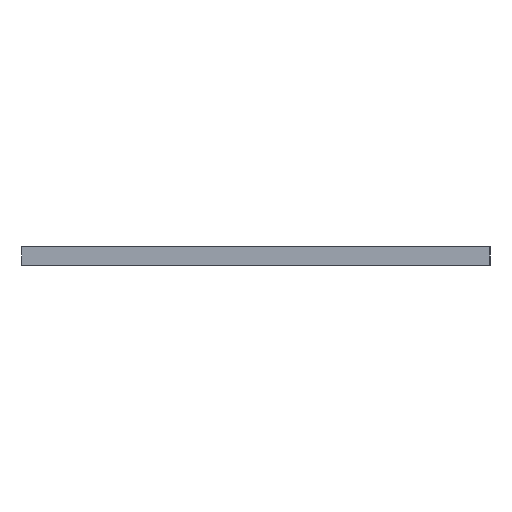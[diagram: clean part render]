
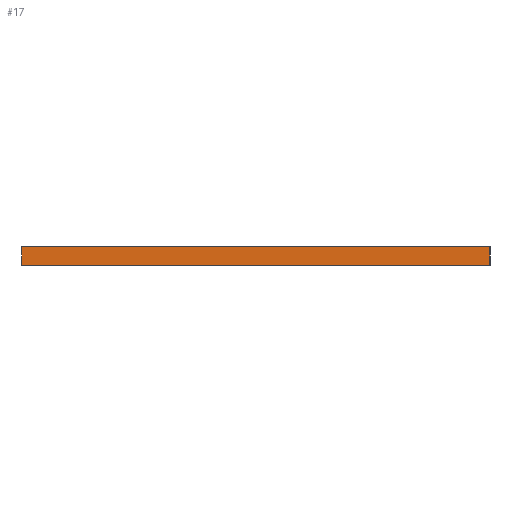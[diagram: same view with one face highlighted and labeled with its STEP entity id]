
A CAD part, left-side view. The second image highlights one B-rep face of the part: STEP entity #17.
In plain terms, the highlighted planar face has unit normal (-1, 0, 0).
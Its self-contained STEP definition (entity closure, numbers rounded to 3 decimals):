
#17 = ADVANCED_FACE('',(#18),#32,.F.);
#18 = FACE_BOUND('',#19,.F.);
#19 = EDGE_LOOP('',(#20,#55,#83,#111));
#20 = ORIENTED_EDGE('',*,*,#21,.F.);
#21 = EDGE_CURVE('',#22,#24,#26,.T.);
#22 = VERTEX_POINT('',#23);
#23 = CARTESIAN_POINT('',(0.,464.,0.));
#24 = VERTEX_POINT('',#25);
#25 = CARTESIAN_POINT('',(0.,0.,0.));
#26 = SURFACE_CURVE('',#27,(#31,#43),.PCURVE_S1.);
#27 = LINE('',#28,#29);
#28 = CARTESIAN_POINT('',(0.,464.,0.));
#29 = VECTOR('',#30,1.);
#30 = DIRECTION('',(0.,-1.,0.));
#31 = PCURVE('',#32,#37);
#32 = PLANE('',#33);
#33 = AXIS2_PLACEMENT_3D('',#34,#35,#36);
#34 = CARTESIAN_POINT('',(0.,464.,0.));
#35 = DIRECTION('',(1.,0.,0.));
#36 = DIRECTION('',(0.,-1.,0.));
#37 = DEFINITIONAL_REPRESENTATION('',(#38),#42);
#38 = LINE('',#39,#40);
#39 = CARTESIAN_POINT('',(0.,0.));
#40 = VECTOR('',#41,1.);
#41 = DIRECTION('',(1.,0.));
#42 = ( GEOMETRIC_REPRESENTATION_CONTEXT(2) 
PARAMETRIC_REPRESENTATION_CONTEXT() REPRESENTATION_CONTEXT('2D SPACE',''
  ) );
#43 = PCURVE('',#44,#49);
#44 = PLANE('',#45);
#45 = AXIS2_PLACEMENT_3D('',#46,#47,#48);
#46 = CARTESIAN_POINT('',(0.,464.,0.));
#47 = DIRECTION('',(0.,0.,1.));
#48 = DIRECTION('',(0.,-1.,0.));
#49 = DEFINITIONAL_REPRESENTATION('',(#50),#54);
#50 = LINE('',#51,#52);
#51 = CARTESIAN_POINT('',(0.,0.));
#52 = VECTOR('',#53,1.);
#53 = DIRECTION('',(1.,0.));
#54 = ( GEOMETRIC_REPRESENTATION_CONTEXT(2) 
PARAMETRIC_REPRESENTATION_CONTEXT() REPRESENTATION_CONTEXT('2D SPACE',''
  ) );
#55 = ORIENTED_EDGE('',*,*,#56,.T.);
#56 = EDGE_CURVE('',#22,#57,#59,.T.);
#57 = VERTEX_POINT('',#58);
#58 = CARTESIAN_POINT('',(0.,464.,18.));
#59 = SURFACE_CURVE('',#60,(#64,#71),.PCURVE_S1.);
#60 = LINE('',#61,#62);
#61 = CARTESIAN_POINT('',(0.,464.,0.));
#62 = VECTOR('',#63,1.);
#63 = DIRECTION('',(0.,0.,1.));
#64 = PCURVE('',#32,#65);
#65 = DEFINITIONAL_REPRESENTATION('',(#66),#70);
#66 = LINE('',#67,#68);
#67 = CARTESIAN_POINT('',(0.,0.));
#68 = VECTOR('',#69,1.);
#69 = DIRECTION('',(0.,-1.));
#70 = ( GEOMETRIC_REPRESENTATION_CONTEXT(2) 
PARAMETRIC_REPRESENTATION_CONTEXT() REPRESENTATION_CONTEXT('2D SPACE',''
  ) );
#71 = PCURVE('',#72,#77);
#72 = PLANE('',#73);
#73 = AXIS2_PLACEMENT_3D('',#74,#75,#76);
#74 = CARTESIAN_POINT('',(0.,464.,0.));
#75 = DIRECTION('',(0.,-1.,0.));
#76 = DIRECTION('',(1.,0.,0.));
#77 = DEFINITIONAL_REPRESENTATION('',(#78),#82);
#78 = LINE('',#79,#80);
#79 = CARTESIAN_POINT('',(0.,0.));
#80 = VECTOR('',#81,1.);
#81 = DIRECTION('',(0.,1.));
#82 = ( GEOMETRIC_REPRESENTATION_CONTEXT(2) 
PARAMETRIC_REPRESENTATION_CONTEXT() REPRESENTATION_CONTEXT('2D SPACE',''
  ) );
#83 = ORIENTED_EDGE('',*,*,#84,.T.);
#84 = EDGE_CURVE('',#57,#85,#87,.T.);
#85 = VERTEX_POINT('',#86);
#86 = CARTESIAN_POINT('',(0.,0.,18.));
#87 = SURFACE_CURVE('',#88,(#92,#99),.PCURVE_S1.);
#88 = LINE('',#89,#90);
#89 = CARTESIAN_POINT('',(0.,464.,18.));
#90 = VECTOR('',#91,1.);
#91 = DIRECTION('',(0.,-1.,0.));
#92 = PCURVE('',#32,#93);
#93 = DEFINITIONAL_REPRESENTATION('',(#94),#98);
#94 = LINE('',#95,#96);
#95 = CARTESIAN_POINT('',(0.,-18.));
#96 = VECTOR('',#97,1.);
#97 = DIRECTION('',(1.,0.));
#98 = ( GEOMETRIC_REPRESENTATION_CONTEXT(2) 
PARAMETRIC_REPRESENTATION_CONTEXT() REPRESENTATION_CONTEXT('2D SPACE',''
  ) );
#99 = PCURVE('',#100,#105);
#100 = PLANE('',#101);
#101 = AXIS2_PLACEMENT_3D('',#102,#103,#104);
#102 = CARTESIAN_POINT('',(0.,464.,18.));
#103 = DIRECTION('',(0.,0.,1.));
#104 = DIRECTION('',(0.,-1.,0.));
#105 = DEFINITIONAL_REPRESENTATION('',(#106),#110);
#106 = LINE('',#107,#108);
#107 = CARTESIAN_POINT('',(0.,0.));
#108 = VECTOR('',#109,1.);
#109 = DIRECTION('',(1.,0.));
#110 = ( GEOMETRIC_REPRESENTATION_CONTEXT(2) 
PARAMETRIC_REPRESENTATION_CONTEXT() REPRESENTATION_CONTEXT('2D SPACE',''
  ) );
#111 = ORIENTED_EDGE('',*,*,#112,.F.);
#112 = EDGE_CURVE('',#24,#85,#113,.T.);
#113 = SURFACE_CURVE('',#114,(#118,#125),.PCURVE_S1.);
#114 = LINE('',#115,#116);
#115 = CARTESIAN_POINT('',(0.,0.,0.));
#116 = VECTOR('',#117,1.);
#117 = DIRECTION('',(0.,0.,1.));
#118 = PCURVE('',#32,#119);
#119 = DEFINITIONAL_REPRESENTATION('',(#120),#124);
#120 = LINE('',#121,#122);
#121 = CARTESIAN_POINT('',(464.,0.));
#122 = VECTOR('',#123,1.);
#123 = DIRECTION('',(0.,-1.));
#124 = ( GEOMETRIC_REPRESENTATION_CONTEXT(2) 
PARAMETRIC_REPRESENTATION_CONTEXT() REPRESENTATION_CONTEXT('2D SPACE',''
  ) );
#125 = PCURVE('',#126,#131);
#126 = PLANE('',#127);
#127 = AXIS2_PLACEMENT_3D('',#128,#129,#130);
#128 = CARTESIAN_POINT('',(0.,0.,0.));
#129 = DIRECTION('',(0.,-1.,0.));
#130 = DIRECTION('',(1.,0.,0.));
#131 = DEFINITIONAL_REPRESENTATION('',(#132),#136);
#132 = LINE('',#133,#134);
#133 = CARTESIAN_POINT('',(0.,0.));
#134 = VECTOR('',#135,1.);
#135 = DIRECTION('',(0.,1.));
#136 = ( GEOMETRIC_REPRESENTATION_CONTEXT(2) 
PARAMETRIC_REPRESENTATION_CONTEXT() REPRESENTATION_CONTEXT('2D SPACE',''
  ) );
